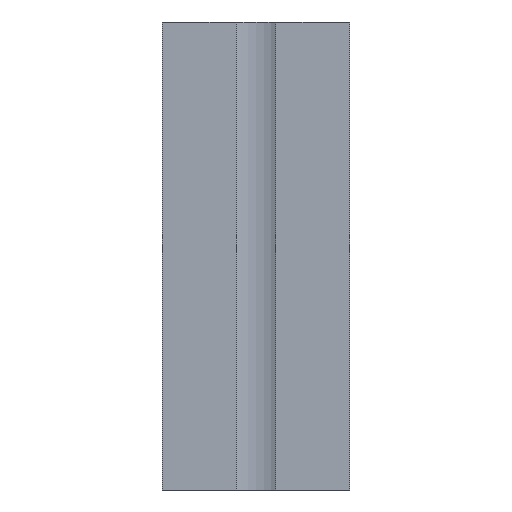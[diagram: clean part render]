
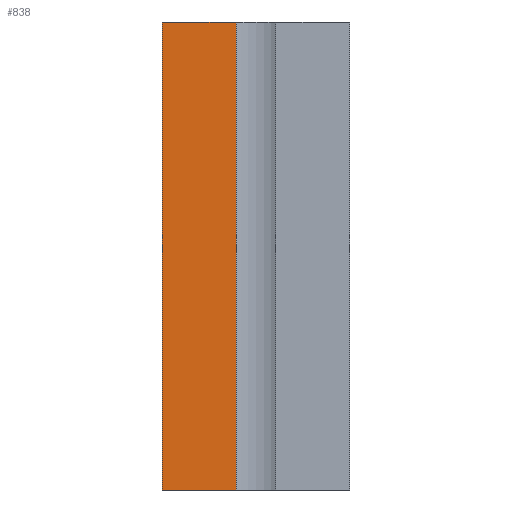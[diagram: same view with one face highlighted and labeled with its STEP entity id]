
A CAD part, front view. The second image highlights one B-rep face of the part: STEP entity #838.
In plain terms, the highlighted planar face has unit normal (0, -1, 0).
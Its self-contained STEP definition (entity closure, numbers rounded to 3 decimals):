
#20=LINE('',#1201,#120);
#21=LINE('',#1204,#121);
#22=LINE('',#1206,#122);
#23=LINE('',#1208,#123);
#120=VECTOR('',#984,1000.);
#121=VECTOR('',#985,1000.);
#122=VECTOR('',#986,1000.);
#123=VECTOR('',#987,1000.);
#220=PLANE('',#904);
#264=ORIENTED_EDGE('',*,*,#500,.T.);
#265=ORIENTED_EDGE('',*,*,#501,.T.);
#266=ORIENTED_EDGE('',*,*,#502,.F.);
#267=ORIENTED_EDGE('',*,*,#503,.F.);
#500=EDGE_CURVE('',#618,#619,#20,.T.);
#501=EDGE_CURVE('',#619,#620,#21,.T.);
#502=EDGE_CURVE('',#621,#620,#22,.T.);
#503=EDGE_CURVE('',#618,#621,#23,.T.);
#618=VERTEX_POINT('',#1202);
#619=VERTEX_POINT('',#1203);
#620=VERTEX_POINT('',#1205);
#621=VERTEX_POINT('',#1207);
#718=EDGE_LOOP('',(#264,#265,#266,#267));
#776=FACE_BOUND('',#718,.T.);
#838=ADVANCED_FACE('',(#776),#220,.T.);
#904=AXIS2_PLACEMENT_3D('',#1200,#982,#983);
#982=DIRECTION('',(0.,-1.,0.));
#983=DIRECTION('',(1.,0.,0.));
#984=DIRECTION('',(1.,0.,0.));
#985=DIRECTION('',(0.,0.,1.));
#986=DIRECTION('',(1.,0.,0.));
#987=DIRECTION('',(0.,0.,1.));
#1200=CARTESIAN_POINT('',(4.2,-20.,0.));
#1201=CARTESIAN_POINT('',(4.2,-20.,-50.));
#1202=CARTESIAN_POINT('',(-20.,-20.,-50.));
#1203=CARTESIAN_POINT('',(-4.2,-20.,-50.));
#1204=CARTESIAN_POINT('',(-4.2,-20.,0.));
#1205=CARTESIAN_POINT('',(-4.2,-20.,50.));
#1206=CARTESIAN_POINT('',(0.,-20.,50.));
#1207=CARTESIAN_POINT('',(-20.,-20.,50.));
#1208=CARTESIAN_POINT('',(-20.,-20.,0.));
